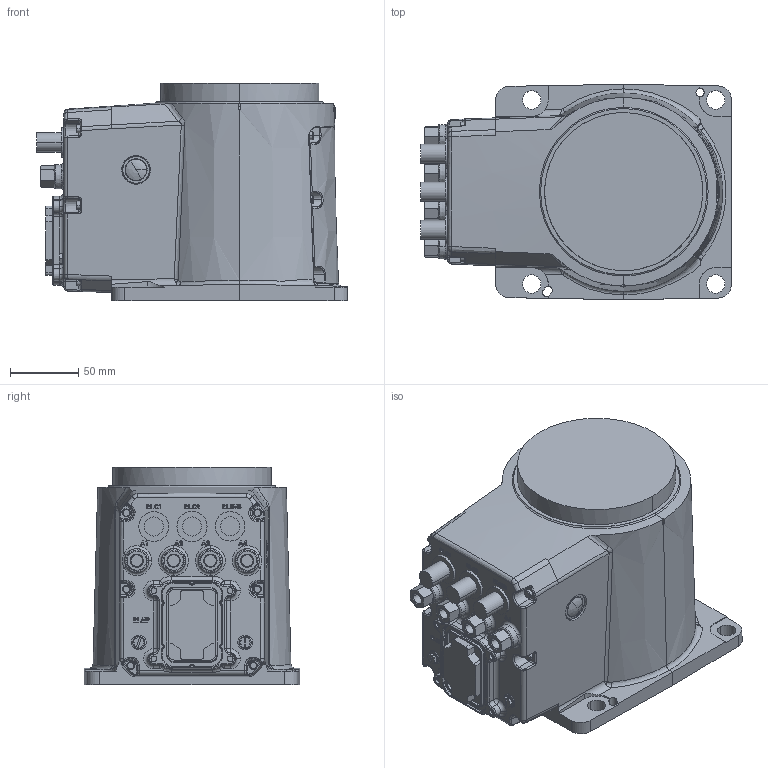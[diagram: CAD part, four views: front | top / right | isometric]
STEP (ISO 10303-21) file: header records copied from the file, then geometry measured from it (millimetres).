
FILE_DESCRIPTION (( 'STEP AP203' ), '1' );
FILE_NAME ('IRB1100_4kg-580-STD_OmniCore_rev04_Base_CAD.STEP', '2023-07-10T07:18:58', ( '' ), ( '' ), 'SwSTEP 2.0', 'SolidWorks 2020', '' );
FILE_SCHEMA (( 'CONFIG_CONTROL_DESIGN' ));
Products named in the file (1): IRB1100_4kg-580-STD_OmniCore_rev04_Base_CAD
Bounding box: 228 x 158 x 159.5 mm (x, y, z)
Volume: 3545967.6 mm3; surface area: 170383.8 mm2
Topology: 1 solids, 1 shells, 1297 faces, 3243 edges, 2029 vertices
Faces by surface type: plane 503, bspline 326, cylinder 249, cone 120, torus 91, sphere 8
Entity records: 57653 total; most frequent: CARTESIAN_POINT 29498, ORIENTED_EDGE 6478, DIRECTION 4826, EDGE_CURVE 3239, VERTEX_POINT 2029, AXIS2_PLACEMENT_3D 1663, LINE 1500, VECTOR 1500
